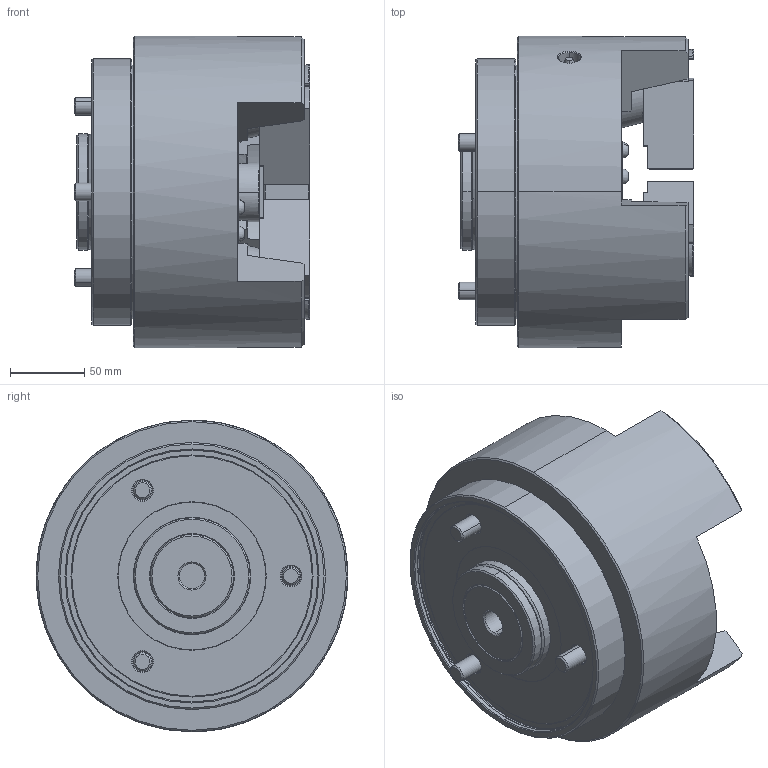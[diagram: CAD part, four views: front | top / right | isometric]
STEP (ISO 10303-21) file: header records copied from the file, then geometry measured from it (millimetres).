
FILE_DESCRIPTION (( 'STEP AP214' ), '1' );
FILE_NAME ('PUB208_CL.STEP', '2019-10-25T04:21:15', ( '' ), ( '' ), 'SwSTEP 2.0', 'SolidWorks 2017', '' );
FILE_SCHEMA (( 'AUTOMOTIVE_DESIGN' ));
Length unit declared in the file: millimetre
Products named in the file (4): 結合; 0030112030; 61P332356; PUB208_CL
Assembly tree (7 placements, depth 2):
  PUB208_CL
    61P332356  x3
    0030112030  x3
    結合
Bounding box: 159 x 210 x 210 mm (x, y, z)
Volume: 3457487.1 mm3; surface area: 266942.9 mm2
Topology: 7 solids, 7 shells, 995 faces, 2491 edges, 1574 vertices
Faces by surface type: plane 480, cone 180, bspline 168, cylinder 134, torus 33
Entity records: 34742 total; most frequent: CARTESIAN_POINT 14346, ORIENTED_EDGE 4486, DIRECTION 3661, EDGE_CURVE 2243, VERTEX_POINT 1436, LINE 1267, VECTOR 1267, AXIS2_PLACEMENT_3D 1197
